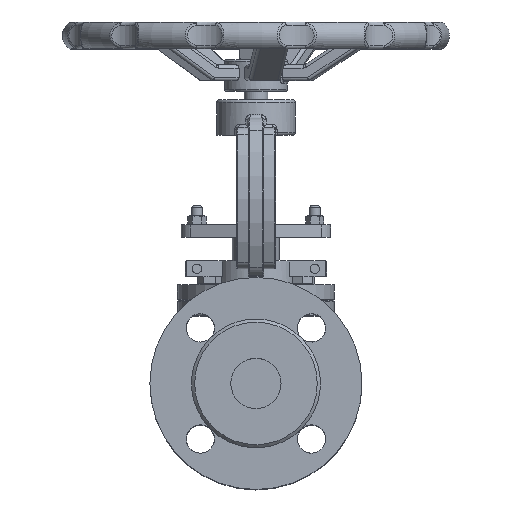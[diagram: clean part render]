
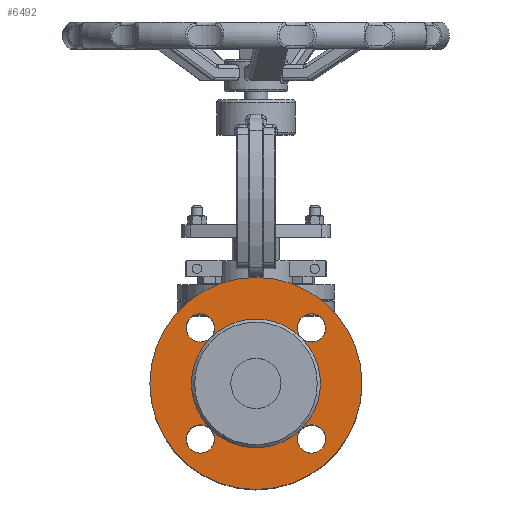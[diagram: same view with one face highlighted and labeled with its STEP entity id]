
A CAD part, top view. The second image highlights one B-rep face of the part: STEP entity #6492.
In plain terms, the highlighted planar face has unit normal (0, 0, 1).
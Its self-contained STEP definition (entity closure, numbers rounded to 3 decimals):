
#6492=ADVANCED_FACE('',(#15478,#15480,#15482,#15484,#15486,#15488),#15490,.F.);
#15478=FACE_BOUND('',#15479,.T.);
#15479=EDGE_LOOP('',(#23118));
#15480=FACE_BOUND('',#15481,.T.);
#15481=EDGE_LOOP('',(#23119));
#15482=FACE_BOUND('',#15483,.T.);
#15483=EDGE_LOOP('',(#23120));
#15484=FACE_BOUND('',#15485,.T.);
#15485=EDGE_LOOP('',(#23121));
#15486=FACE_BOUND('',#15487,.T.);
#15487=EDGE_LOOP('',(#23122));
#15488=FACE_BOUND('',#15489,.T.);
#15489=EDGE_LOOP('',(#23123));
#15490=PLANE('',#15491);
#15491=AXIS2_PLACEMENT_3D('',#15492,#15493,#15494);
#15492=CARTESIAN_POINT('',(0.,0.,88.));
#15493=DIRECTION('',(0.,0.,-1.));
#15494=DIRECTION('',(0.,1.,0.));
#23118=ORIENTED_EDGE('',*,*,#25986,.T.);
#23119=ORIENTED_EDGE('',*,*,#26197,.F.);
#23120=ORIENTED_EDGE('',*,*,#25990,.T.);
#23121=ORIENTED_EDGE('',*,*,#25989,.T.);
#23122=ORIENTED_EDGE('',*,*,#25988,.T.);
#23123=ORIENTED_EDGE('',*,*,#25987,.T.);
#25986=EDGE_CURVE('',#29444,#29444,#29445,.T.);
#25987=EDGE_CURVE('',#29446,#29446,#29447,.T.);
#25988=EDGE_CURVE('',#29448,#29448,#29449,.T.);
#25989=EDGE_CURVE('',#29450,#29450,#29451,.T.);
#25990=EDGE_CURVE('',#29452,#29452,#29453,.T.);
#26197=EDGE_CURVE('',#29791,#29791,#29792,.T.);
#29444=VERTEX_POINT('',#52077);
#29445=CIRCLE('',#52078,67.5);
#29446=VERTEX_POINT('',#52082);
#29447=CIRCLE('',#52083,9.);
#29448=VERTEX_POINT('',#52087);
#29449=CIRCLE('',#52088,9.);
#29450=VERTEX_POINT('',#52092);
#29451=CIRCLE('',#52093,9.);
#29452=VERTEX_POINT('',#52097);
#29453=CIRCLE('',#52098,9.);
#29791=VERTEX_POINT('',#54457);
#29792=CIRCLE('',#54458,41.);
#52077=CARTESIAN_POINT('',(0.,67.5,88.));
#52078=AXIS2_PLACEMENT_3D('',#52079,#52080,#52081);
#52079=CARTESIAN_POINT('',(0.,0.,88.));
#52080=DIRECTION('',(0.,0.,1.));
#52081=DIRECTION('',(0.,1.,0.));
#52082=CARTESIAN_POINT('',(35.355,-26.355,88.));
#52083=AXIS2_PLACEMENT_3D('',#52084,#52085,#52086);
#52084=CARTESIAN_POINT('',(35.355,-35.355,88.));
#52085=DIRECTION('',(0.,0.,-1.));
#52086=DIRECTION('',(0.,1.,0.));
#52087=CARTESIAN_POINT('',(-35.355,26.355,88.));
#52088=AXIS2_PLACEMENT_3D('',#52089,#52090,#52091);
#52089=CARTESIAN_POINT('',(-35.355,35.355,88.));
#52090=DIRECTION('',(0.,0.,-1.));
#52091=DIRECTION('',(0.,-1.,0.));
#52092=CARTESIAN_POINT('',(26.355,35.355,88.));
#52093=AXIS2_PLACEMENT_3D('',#52094,#52095,#52096);
#52094=CARTESIAN_POINT('',(35.355,35.355,88.));
#52095=DIRECTION('',(0.,0.,-1.));
#52096=DIRECTION('',(-1.,0.,0.));
#52097=CARTESIAN_POINT('',(-26.355,-35.355,88.));
#52098=AXIS2_PLACEMENT_3D('',#52099,#52100,#52101);
#52099=CARTESIAN_POINT('',(-35.355,-35.355,88.));
#52100=DIRECTION('',(0.,0.,-1.));
#52101=DIRECTION('',(1.,0.,0.));
#54457=CARTESIAN_POINT('',(0.,41.,88.));
#54458=AXIS2_PLACEMENT_3D('',#54459,#54460,#54461);
#54459=CARTESIAN_POINT('',(0.,0.,88.));
#54460=DIRECTION('',(0.,0.,1.));
#54461=DIRECTION('',(0.,1.,0.));
